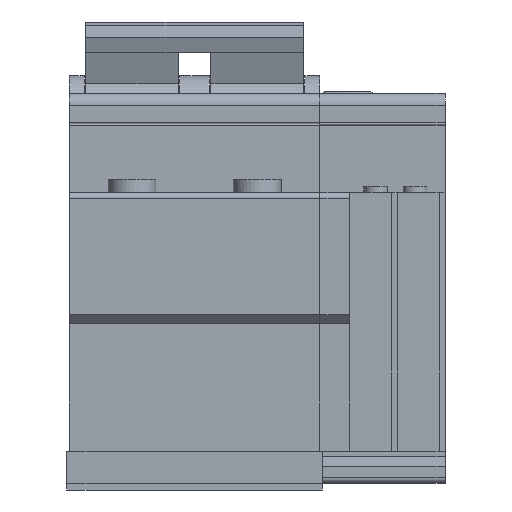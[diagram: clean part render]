
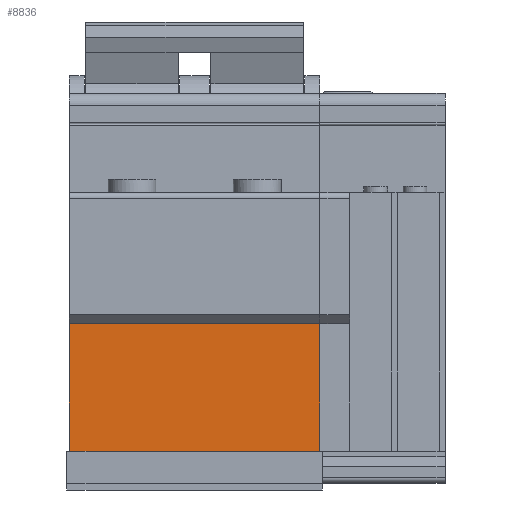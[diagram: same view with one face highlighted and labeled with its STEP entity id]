
A CAD part, front view. The second image highlights one B-rep face of the part: STEP entity #8836.
In plain terms, the highlighted planar face has unit normal (0, -1, 0).
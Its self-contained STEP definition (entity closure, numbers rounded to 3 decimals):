
#833=FACE_OUTER_BOUND('',#1428,.T.);
#1428=EDGE_LOOP('',(#6796,#6797,#6798,#6799));
#2169=LINE('',#13701,#3086);
#2197=LINE('',#13931,#3114);
#2215=LINE('',#13993,#3132);
#2216=LINE('',#13994,#3133);
#3086=VECTOR('',#10631,10.);
#3114=VECTOR('',#10915,10.);
#3132=VECTOR('',#10963,10.);
#3133=VECTOR('',#10964,10.);
#3924=VERTEX_POINT('',#13647);
#3950=VERTEX_POINT('',#13699);
#4022=VERTEX_POINT('',#13927);
#4024=VERTEX_POINT('',#13930);
#4933=EDGE_CURVE('',#3950,#3924,#2169,.T.);
#5030=EDGE_CURVE('',#4024,#4022,#2197,.T.);
#5062=EDGE_CURVE('',#4022,#3924,#2215,.T.);
#5063=EDGE_CURVE('',#4024,#3950,#2216,.T.);
#6796=ORIENTED_EDGE('',*,*,#5062,.T.);
#6797=ORIENTED_EDGE('',*,*,#4933,.F.);
#6798=ORIENTED_EDGE('',*,*,#5063,.F.);
#6799=ORIENTED_EDGE('',*,*,#5030,.T.);
#8363=PLANE('',#9461);
#8836=ADVANCED_FACE('',(#833),#8363,.T.);
#9461=AXIS2_PLACEMENT_3D('',#13992,#10961,#10962);
#10631=DIRECTION('',(0.,0.,-1.));
#10915=DIRECTION('',(0.,0.,-1.));
#10961=DIRECTION('center_axis',(0.,-1.,0.));
#10962=DIRECTION('ref_axis',(0.,0.,-1.));
#10963=DIRECTION('',(1.,0.,0.));
#10964=DIRECTION('',(1.,0.,0.));
#13647=CARTESIAN_POINT('',(42.,-24.356,-59.196));
#13699=CARTESIAN_POINT('',(42.,-24.356,-37.778));
#13701=CARTESIAN_POINT('',(42.,-24.356,-37.778));
#13927=CARTESIAN_POINT('',(0.,-24.356,-59.196));
#13930=CARTESIAN_POINT('',(0.,-24.356,-37.778));
#13931=CARTESIAN_POINT('',(0.,-24.356,-37.778));
#13992=CARTESIAN_POINT('Origin',(0.,-24.356,-37.778));
#13993=CARTESIAN_POINT('',(5.25,-24.356,-59.196));
#13994=CARTESIAN_POINT('',(0.,-24.356,-37.778));
